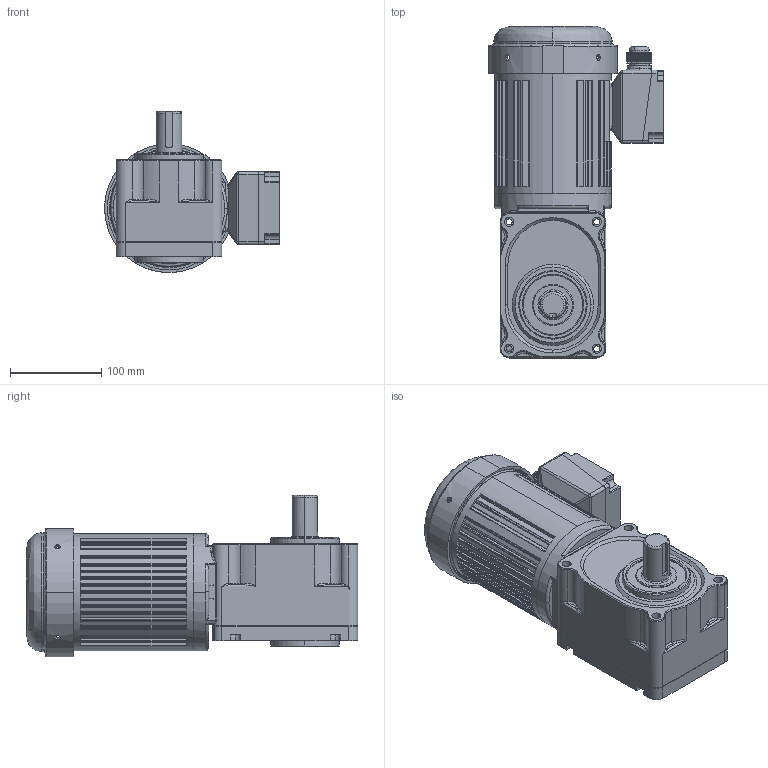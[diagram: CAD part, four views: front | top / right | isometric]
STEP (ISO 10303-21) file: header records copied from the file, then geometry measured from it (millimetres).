
FILE_DESCRIPTION (( 'STEP AP203' ), '1' );
FILE_NAME ('ZDF3-28A5K-60K-400-S3.STEP', '2020-05-05T06:44:43', ( '' ), ( '' ), 'SwSTEP 2.0', 'SolidWorks 2019', '' );
FILE_SCHEMA (( 'CONFIG_CONTROL_DESIGN' ));
Length unit declared in the file: millimetre
Products named in the file (9): 400W儂褲12.23; ZDF3-28A5K-60K-400-S3; 諉盄碟裔; 400W綴傷裔; ZDF3-28A5K-60K-400-S3(B); 釱菜12.24; 400W-fengzhao; 諉盄碟釱12.23; 諉芛
Assembly tree (8 placements, depth 2):
  ZDF3-28A5K-60K-400-S3
    ZDF3-28A5K-60K-400-S3(B)
    400W儂褲12.23
    釱菜12.24
    諉盄碟釱12.23
    諉芛
    諉盄碟裔
    400W綴傷裔
    400W-fengzhao
Bounding box: 191.48 x 363.5 x 176.5 mm (x, y, z)
Volume: 2612262.1 mm3; surface area: 452275.4 mm2
Topology: 7 solids, 17 shells, 1787 faces, 4857 edges, 3157 vertices
Faces by surface type: cylinder 1047, plane 523, cone 80, bspline 66, torus 55, sphere 16
Entity records: 65746 total; most frequent: CARTESIAN_POINT 18803, DIRECTION 9895, ORIENTED_EDGE 9622, EDGE_CURVE 4831, AXIS2_PLACEMENT_3D 3923, VERTEX_POINT 3156, CIRCLE 2190, EDGE_LOOP 2165
